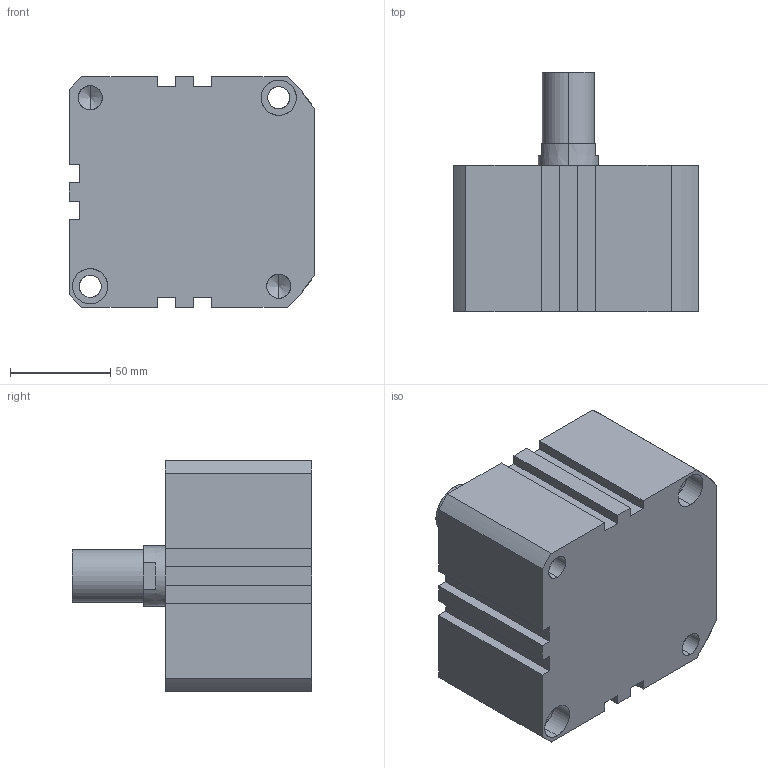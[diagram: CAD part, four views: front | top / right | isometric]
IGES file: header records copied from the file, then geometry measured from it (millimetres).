
Start section: SolidWorks IGES file using analytic representation for surfaces
Global section: file name: C:\Users\Toshiba\Desktop\XG#M2-100-10.IGS; native system: SolidWorks 2014; preprocessor: SolidWorks 2014; author: Toshiba; date: 160524.102035; units: millimetre
Bounding box: 122.5 x 119.5 x 115 mm (x, y, z)
Surface area: 81443.4 mm2 (no closed solid volume)
Topology: 0 solids, 0 shells, 110 faces, 1887 edges, 1875 vertices
Faces by surface type: revolution 63, bspline 47
